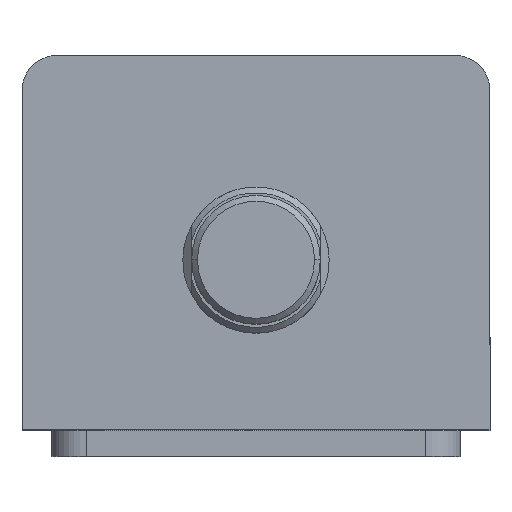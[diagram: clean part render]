
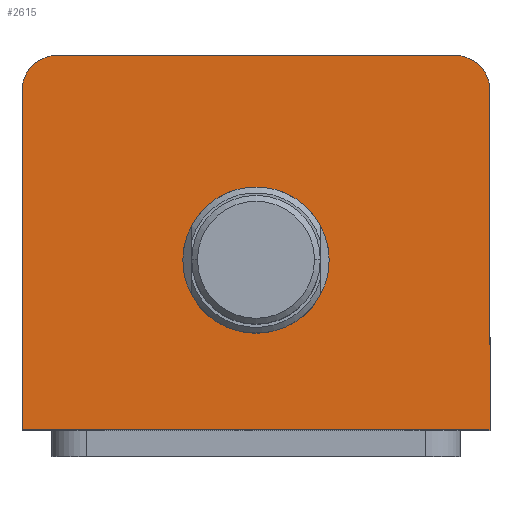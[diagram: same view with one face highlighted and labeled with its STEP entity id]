
A CAD part, top view. The second image highlights one B-rep face of the part: STEP entity #2615.
In plain terms, the highlighted planar face has unit normal (0, 0, 1).
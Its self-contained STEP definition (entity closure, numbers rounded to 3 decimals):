
#154 = AXIS2_PLACEMENT_3D ( 'NONE', #3077, #3076, #3075 ) ;
#487 = FACE_BOUND ( 'NONE', #1702, .T. ) ;
#490 = FACE_OUTER_BOUND ( 'NONE', #1754, .T. ) ;
#660 = CIRCLE ( 'NONE', #154, 12.5 ) ;
#964 = VERTEX_POINT ( 'NONE', #2303 ) ;
#968 = VERTEX_POINT ( 'NONE', #2296 ) ;
#979 = VERTEX_POINT ( 'NONE', #2278 ) ;
#982 = VERTEX_POINT ( 'NONE', #2272 ) ;
#1026 = VERTEX_POINT ( 'NONE', #2480 ) ;
#1028 = VERTEX_POINT ( 'NONE', #2477 ) ;
#1039 = VERTEX_POINT ( 'NONE', #2460 ) ;
#1045 = VERTEX_POINT ( 'NONE', #2451 ) ;
#1105 = ORIENTED_EDGE ( 'NONE', *, *, #2102, .T. ) ;
#1106 = ORIENTED_EDGE ( 'NONE', *, *, #2094, .T. ) ;
#1107 = ORIENTED_EDGE ( 'NONE', *, *, #2047, .T. ) ;
#1108 = ORIENTED_EDGE ( 'NONE', *, *, #2115, .T. ) ;
#1109 = ORIENTED_EDGE ( 'NONE', *, *, #2111, .T. ) ;
#1110 = ORIENTED_EDGE ( 'NONE', *, *, #2065, .T. ) ;
#1111 = ORIENTED_EDGE ( 'NONE', *, *, #3090, .F. ) ;
#1112 = ORIENTED_EDGE ( 'NONE', *, *, #2128, .F. ) ;
#1193 = LINE ( 'NONE', #2423, #1200 ) ;
#1200 = VECTOR ( 'NONE', #2383, 1000. ) ;
#1228 = LINE ( 'NONE', #2350, #1231 ) ;
#1231 = VECTOR ( 'NONE', #2369, 1000. ) ;
#1280 = LINE ( 'NONE', #3572, #1283 ) ;
#1283 = VECTOR ( 'NONE', #3571, 1000. ) ;
#1287 = CIRCLE ( 'NONE', #2828, 6. ) ;
#1300 = CIRCLE ( 'NONE', #3139, 6. ) ;
#1306 = LINE ( 'NONE', #3668, #1309 ) ;
#1309 = VECTOR ( 'NONE', #3667, 1000. ) ;
#1332 = CIRCLE ( 'NONE', #3123, 12.5 ) ;
#1702 = EDGE_LOOP ( 'NONE', ( #1112, #1111 ) ) ;
#1754 = EDGE_LOOP ( 'NONE', ( #1110, #1109, #1108, #1107, #1106, #1105 ) ) ;
#2047 = EDGE_CURVE ( 'NONE', #1026, #1028, #1193, .T. ) ;
#2065 = EDGE_CURVE ( 'NONE', #964, #968, #1228, .T. ) ;
#2094 = EDGE_CURVE ( 'NONE', #1028, #979, #1280, .T. ) ;
#2102 = EDGE_CURVE ( 'NONE', #979, #964, #1287, .T. ) ;
#2111 = EDGE_CURVE ( 'NONE', #968, #982, #1300, .T. ) ;
#2115 = EDGE_CURVE ( 'NONE', #982, #1026, #1306, .T. ) ;
#2128 = EDGE_CURVE ( 'NONE', #1045, #1039, #1332, .T. ) ;
#2272 = CARTESIAN_POINT ( 'NONE',  ( -40., 26., 105. ) ) ;
#2278 = CARTESIAN_POINT ( 'NONE',  ( 40., 26., 105. ) ) ;
#2296 = CARTESIAN_POINT ( 'NONE',  ( -34., 32., 105. ) ) ;
#2303 = CARTESIAN_POINT ( 'NONE',  ( 34., 32., 105. ) ) ;
#2350 = CARTESIAN_POINT ( 'NONE',  ( -40., 32., 105. ) ) ;
#2369 = DIRECTION ( 'NONE',  ( -1., 0., 0. ) ) ;
#2383 = DIRECTION ( 'NONE',  ( 1., 0., 0. ) ) ;
#2423 = CARTESIAN_POINT ( 'NONE',  ( -40., -32., 105. ) ) ;
#2451 = CARTESIAN_POINT ( 'NONE',  ( 12.5, -3., 105. ) ) ;
#2460 = CARTESIAN_POINT ( 'NONE',  ( -12.5, -3., 105. ) ) ;
#2477 = CARTESIAN_POINT ( 'NONE',  ( 40., -32., 105. ) ) ;
#2480 = CARTESIAN_POINT ( 'NONE',  ( -40., -32., 105. ) ) ;
#2615 = ADVANCED_FACE ( 'NONE', ( #487, #490 ), #3338, .T. ) ;
#2788 = AXIS2_PLACEMENT_3D ( 'NONE', #3345, #3336, #3335 ) ;
#2828 = AXIS2_PLACEMENT_3D ( 'NONE', #3516, #3510, #3505 ) ;
#3075 = DIRECTION ( 'NONE',  ( 1., 0., 0. ) ) ;
#3076 = DIRECTION ( 'NONE',  ( 0., 0., 1. ) ) ;
#3077 = CARTESIAN_POINT ( 'NONE',  ( 0., -3., 105. ) ) ;
#3090 = EDGE_CURVE ( 'NONE', #1039, #1045, #660, .T. ) ;
#3123 = AXIS2_PLACEMENT_3D ( 'NONE', #3633, #3632, #3631 ) ;
#3139 = AXIS2_PLACEMENT_3D ( 'NONE', #3681, #3680, #3678 ) ;
#3335 = DIRECTION ( 'NONE',  ( 1., 0., 0. ) ) ;
#3336 = DIRECTION ( 'NONE',  ( 0., 0., 1. ) ) ;
#3338 = PLANE ( 'NONE',  #2788 ) ;
#3345 = CARTESIAN_POINT ( 'NONE',  ( 0., 0., 105. ) ) ;
#3505 = DIRECTION ( 'NONE',  ( 1., 0., 0. ) ) ;
#3510 = DIRECTION ( 'NONE',  ( 0., 0., 1. ) ) ;
#3516 = CARTESIAN_POINT ( 'NONE',  ( 34., 26., 105. ) ) ;
#3571 = DIRECTION ( 'NONE',  ( 0., 1., 0. ) ) ;
#3572 = CARTESIAN_POINT ( 'NONE',  ( 40., 32., 105. ) ) ;
#3631 = DIRECTION ( 'NONE',  ( 1., 0., 0. ) ) ;
#3632 = DIRECTION ( 'NONE',  ( 0., 0., 1. ) ) ;
#3633 = CARTESIAN_POINT ( 'NONE',  ( 0., -3., 105. ) ) ;
#3667 = DIRECTION ( 'NONE',  ( 0., -1., 0. ) ) ;
#3668 = CARTESIAN_POINT ( 'NONE',  ( -40., 32., 105. ) ) ;
#3678 = DIRECTION ( 'NONE',  ( 1., 0., 0. ) ) ;
#3680 = DIRECTION ( 'NONE',  ( 0., 0., 1. ) ) ;
#3681 = CARTESIAN_POINT ( 'NONE',  ( -34., 26., 105. ) ) ;
